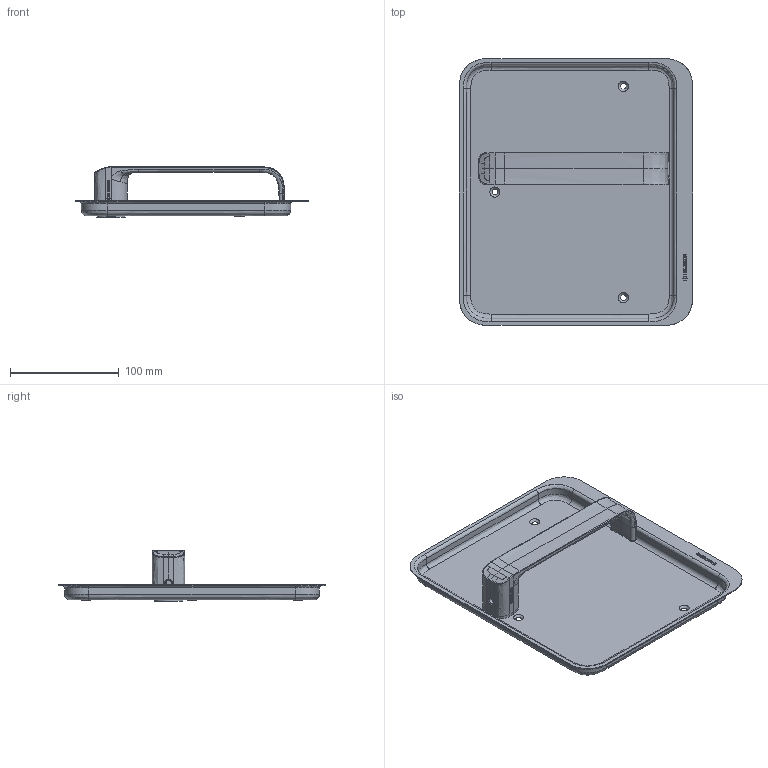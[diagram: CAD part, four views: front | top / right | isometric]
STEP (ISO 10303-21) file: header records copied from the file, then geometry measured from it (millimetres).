
FILE_DESCRIPTION(/* description */ (''),/* implementation_level */ '2;1');
FILE_NAME(/* name */ 'C:\Users\gm\Desktop\Muschel S9.13.D4.stp',/* time_stamp */ '2020-09-24T17:03:52+02:00',/* author */ ('gm'),/* organization */ (''),/* preprocessor_version */ 'ST-DEVELOPER v16.5',/* originating_system */ 'Autodesk Inventor 2017',/* authorisation */ '');
FILE_SCHEMA (('AUTOMOTIVE_DESIGN { 1 0 10303 214 3 1 1 }'));
Length unit declared in the file: millimetre
Products named in the file (1): Muschel S9.13.D4
Bounding box: 214 x 245 x 47.34 mm (x, y, z)
Volume: 113105.2 mm3; surface area: 142210.1 mm2
Topology: 1 solids, 2 shells, 567 faces, 1489 edges, 970 vertices
Faces by surface type: plane 281, bspline 244, cylinder 24, cone 18
Full cylindrical faces by diameter (mm): 1.7 x2, 4.917 x1, 14.2 x1, 16 x3, 18 x1, 19 x1, 19.1 x1, 23 x1, 23.2 x1, 24 x1, 25 x1, 26 x1, 28 x1, 28.6 x1
Entity records: 29055 total; most frequent: CARTESIAN_POINT 16188, ORIENTED_EDGE 2888, DIRECTION 1781, EDGE_CURVE 1444, VERTEX_POINT 960, LINE 803, VECTOR 803, EDGE_LOOP 662
